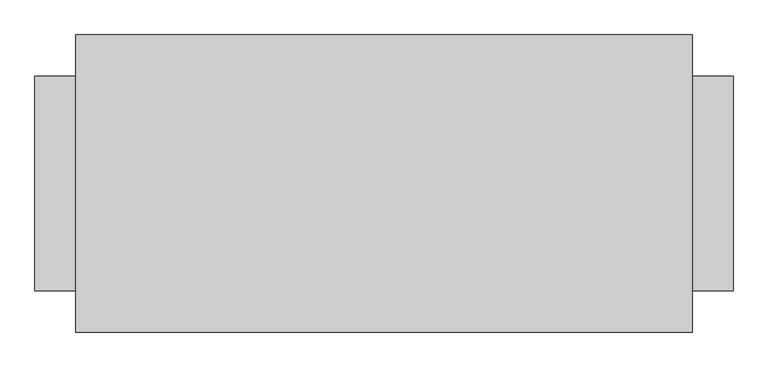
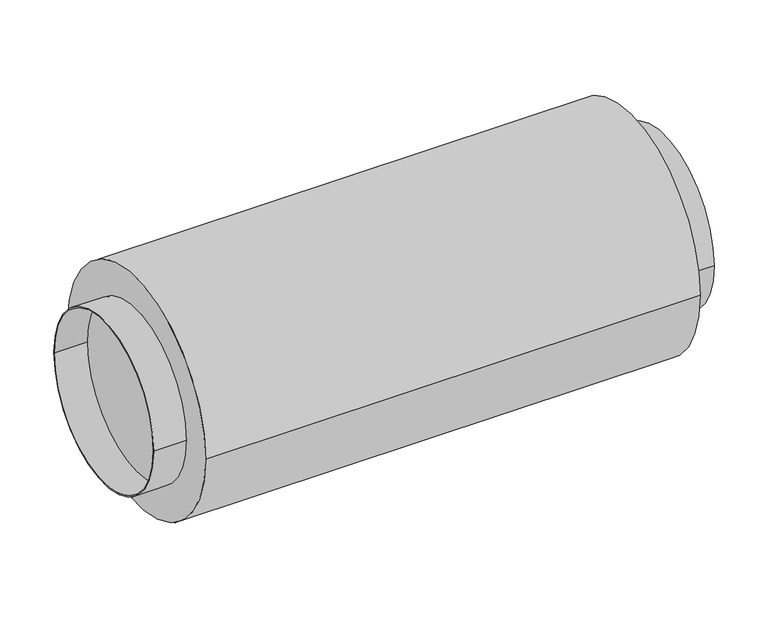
"""IFC4 building model written with IfcOpenShell, lengths in millimetres: damper geometry, СВ_Шумоглушитель_КанальныйКруглый_DN100-315_SHK : SHK-315/900."""

from ifc_helpers import new_model, si_unit, point, frame, origin, origin_2d, place, context, project, spatial, circle_curve, trimmed, segment, composite_curve, outline, extrude, source, transform, mapped, element, save


def damper_b8da7f2a(model_context):
    return source(origin(), model_context, "Body", "SweptSolid", [
        extrude(outline(composite_curve([segment(trimmed(circle_curve(origin_2d(), 217.0), [point((-217.0, 0.0))], [point((217.0, 0.0))], False, "CARTESIAN"), True, "CONTINUOUS"), segment(trimmed(circle_curve(origin_2d(), 217.0), [point((217.0, 0.0))], [point((-217.0, 0.0))], False, "CARTESIAN"), True, "CONTINUOUS")], self_intersect=False)), frame((-450.0, 0.0, 0.0), z_axis=(1.0, 0.0, 0.0), x_axis=(0.0, 1.0, 0.0)), (0.0, 0.0, 1.0), 900.0),
        extrude(outline(composite_curve([segment(trimmed(circle_curve(origin_2d(), 157.0), [point((-157.0, 0.0))], [point((157.0, 0.0))], False, "CARTESIAN"), True, "CONTINUOUS"), segment(trimmed(circle_curve(origin_2d(), 157.0), [point((157.0, 0.0))], [point((-157.0, 0.0))], False, "CARTESIAN"), True, "CONTINUOUS")], self_intersect=False), holes=[composite_curve([segment(trimmed(circle_curve(origin_2d(), 155.0), [point((-155.0, 0.0))], [point((155.0, 0.0))], True, "CARTESIAN"), True, "CONTINUOUS"), segment(trimmed(circle_curve(origin_2d(), 155.0), [point((155.0, 0.0))], [point((-155.0, 0.0))], True, "CARTESIAN"), True, "CONTINUOUS")], self_intersect=False)]), frame((-510.0, 0.0, 0.0), z_axis=(1.0, 0.0, 0.0), x_axis=(0.0, 1.0, 0.0)), (0.0, 0.0, 1.0), 60.0),
        extrude(outline(composite_curve([segment(trimmed(circle_curve(origin_2d(), 157.0), [point((-157.0, 0.0))], [point((157.0, 0.0))], False, "CARTESIAN"), True, "CONTINUOUS"), segment(trimmed(circle_curve(origin_2d(), 157.0), [point((157.0, 0.0))], [point((-157.0, 0.0))], False, "CARTESIAN"), True, "CONTINUOUS")], self_intersect=False), holes=[composite_curve([segment(trimmed(circle_curve(origin_2d(), 155.0), [point((-155.0, 0.0))], [point((155.0, 0.0))], True, "CARTESIAN"), True, "CONTINUOUS"), segment(trimmed(circle_curve(origin_2d(), 155.0), [point((155.0, 0.0))], [point((-155.0, 0.0))], True, "CARTESIAN"), True, "CONTINUOUS")], self_intersect=False)]), frame((450.0, 0.0, 0.0), z_axis=(1.0, 0.0, 0.0), x_axis=(0.0, 1.0, 0.0)), (0.0, 0.0, 1.0), 60.0),
    ])


if __name__ == "__main__":
    model = new_model("IFC4")
    model_context = context("Model", 3, world=origin())
    ifc_project = project(units=[si_unit("LENGTHUNIT", "METRE", prefix="MILLI")], contexts=[model_context])
    site = spatial("IfcSite", under=ifc_project)
    building = spatial("IfcBuilding", under=site)
    placement = place(None, origin())
    damper_shape = damper_b8da7f2a(model_context)
    element("IfcDamper", 1, ObjectType="СВ_Шумоглушитель_КанальныйКруглый_DN100-315_SHK : SHK-315/900", at=placement, inside=building, context=model_context, shape_type="MappedRepresentation", body=[
        mapped(damper_shape, transform((0.0, 0.0, 0.0), x_axis=(1.0, 0.0, 0.0), y_axis=(0.0, 1.0, 0.0), z_axis=(0.0, 0.0, 1.0))),
    ])
    save(model, "model.ifc")
